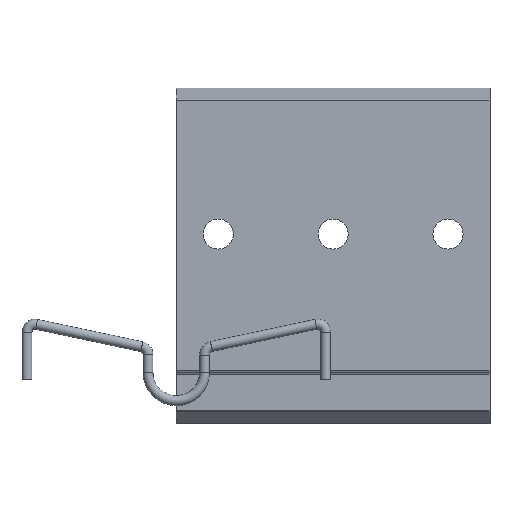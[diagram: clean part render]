
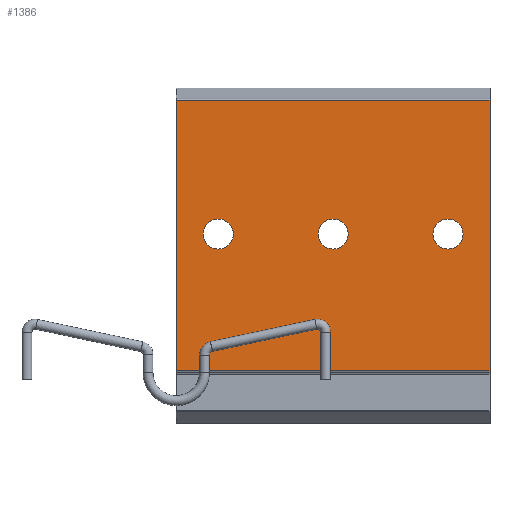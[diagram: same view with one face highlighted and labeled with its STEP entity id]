
A CAD part, top view. The second image highlights one B-rep face of the part: STEP entity #1386.
In plain terms, the highlighted planar face has unit normal (0, 0, 1).
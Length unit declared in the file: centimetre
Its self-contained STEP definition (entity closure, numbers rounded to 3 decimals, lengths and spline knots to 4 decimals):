
#531=VERTEX_POINT('',#4705);
#533=VERTEX_POINT('',#4710);
#535=VERTEX_POINT('',#4715);
#541=VERTEX_POINT('',#4729);
#542=VERTEX_POINT('',#4730);
#543=VERTEX_POINT('',#4732);
#544=VERTEX_POINT('',#4734);
#661=EDGE_CURVE('',#531,#531,#1681,.T.);
#663=EDGE_CURVE('',#533,#533,#1683,.T.);
#665=EDGE_CURVE('',#535,#535,#1685,.T.);
#671=EDGE_CURVE('',#541,#542,#2735,.T.);
#672=EDGE_CURVE('',#543,#542,#2736,.T.);
#673=EDGE_CURVE('',#544,#543,#2737,.T.);
#674=EDGE_CURVE('',#544,#541,#2738,.T.);
#862=ORIENTED_EDGE('',*,*,#661,.T.);
#863=ORIENTED_EDGE('',*,*,#663,.T.);
#864=ORIENTED_EDGE('',*,*,#665,.T.);
#865=ORIENTED_EDGE('',*,*,#671,.T.);
#866=ORIENTED_EDGE('',*,*,#672,.F.);
#867=ORIENTED_EDGE('',*,*,#673,.F.);
#868=ORIENTED_EDGE('',*,*,#674,.T.);
#1204=EDGE_LOOP('',(#862));
#1205=EDGE_LOOP('',(#863));
#1206=EDGE_LOOP('',(#864));
#1207=EDGE_LOOP('',(#865,#866,#867,#868));
#1298=FACE_BOUND('',#1204,.T.);
#1299=FACE_BOUND('',#1205,.T.);
#1300=FACE_BOUND('',#1206,.T.);
#1301=FACE_BOUND('',#1207,.T.);
#1386=ADVANCED_FACE('',(#1298,#1299,#1300,#1301),#4056,.T.);
#1681=CIRCLE('',#3699,0.2159);
#1683=CIRCLE('',#3702,0.2159);
#1685=CIRCLE('',#3705,0.2159);
#2735=LINE('',#4728,#3932);
#2736=LINE('',#4731,#3933);
#2737=LINE('',#4733,#3934);
#2738=LINE('',#4735,#3935);
#3699=AXIS2_PLACEMENT_3D('',#4704,#5289,#5290);
#3702=AXIS2_PLACEMENT_3D('',#4709,#5295,#5296);
#3705=AXIS2_PLACEMENT_3D('',#4714,#5301,#5302);
#3708=AXIS2_PLACEMENT_3D('',#4727,#5310,$);
#3932=VECTOR('',#5311,1.);
#3933=VECTOR('',#5312,1.);
#3934=VECTOR('',#5313,1.);
#3935=VECTOR('',#5314,1.);
#4056=PLANE('',#3708);
#4704=CARTESIAN_POINT('',(3.9053,1.9878,0.));
#4705=CARTESIAN_POINT('',(3.6894,1.9878,0.));
#4709=CARTESIAN_POINT('',(0.6033,1.9878,0.));
#4710=CARTESIAN_POINT('',(0.3874,1.9878,0.));
#4714=CARTESIAN_POINT('',(2.2543,1.9878,0.));
#4715=CARTESIAN_POINT('',(2.0384,1.9878,0.));
#4727=CARTESIAN_POINT('',(0.,0.0254,0.));
#4728=CARTESIAN_POINT('',(4.5085,0.0254,0.));
#4729=CARTESIAN_POINT('',(4.5085,0.0254,0.));
#4730=CARTESIAN_POINT('',(4.5085,3.9116,0.));
#4731=CARTESIAN_POINT('',(0.,3.9116,0.));
#4732=CARTESIAN_POINT('',(0.,3.9116,0.));
#4733=CARTESIAN_POINT('',(0.,0.0254,0.));
#4734=CARTESIAN_POINT('',(0.,0.0254,0.));
#4735=CARTESIAN_POINT('',(0.,0.0254,0.));
#5289=DIRECTION('',(0.,0.,-1.));
#5290=DIRECTION('',(0.216,0.,0.));
#5295=DIRECTION('',(0.,0.,-1.));
#5296=DIRECTION('',(0.216,0.,0.));
#5301=DIRECTION('',(0.,0.,-1.));
#5302=DIRECTION('',(0.216,0.,0.));
#5310=DIRECTION('',(0.,0.,1.));
#5311=DIRECTION('',(0.,1.,0.));
#5312=DIRECTION('',(1.,0.,0.));
#5313=DIRECTION('',(0.,1.,0.));
#5314=DIRECTION('',(1.,0.,0.));
